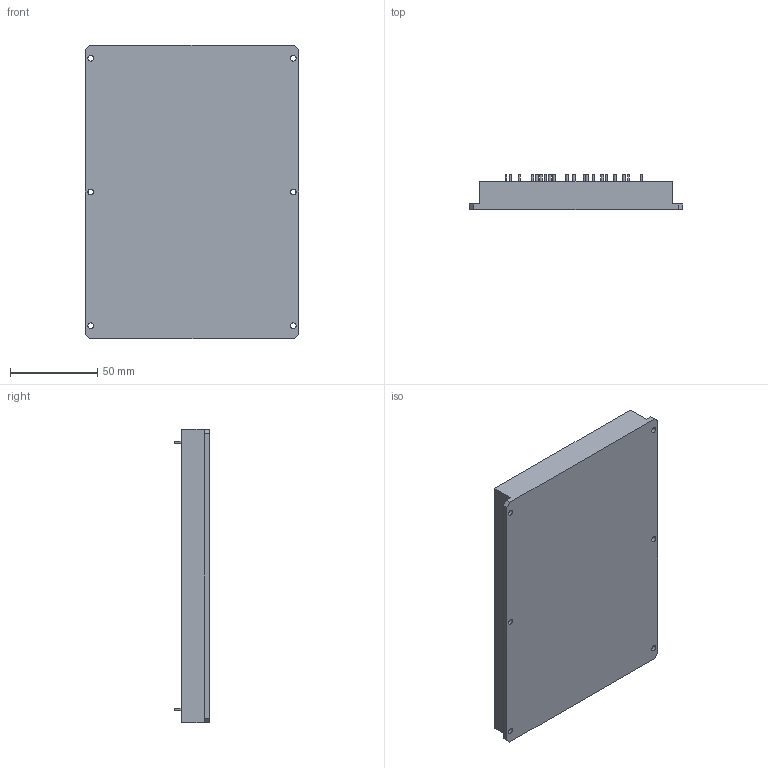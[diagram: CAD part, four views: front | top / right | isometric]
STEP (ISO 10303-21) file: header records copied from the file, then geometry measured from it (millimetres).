
FILE_DESCRIPTION(/* description */ (''),/* implementation_level */ '2;1');
FILE_NAME(/* name */ '',/* time_stamp */ '2021-06-23T20:02:09+02:00',/* author */ (''),/* organization */ (''),/* preprocessor_version */ 'ST-DEVELOPER v18.1',/* originating_system */ '',/* authorisation */ '');
FILE_SCHEMA (('AUTOMOTIVE_DESIGN { 1 0 10303 214 3 1 1 }'));
Length unit declared in the file: millimetre
Products named in the file (1): TESAV1000-F8_case_pins
Bounding box: 122 x 20 x 168 mm (x, y, z)
Volume: 283303.7 mm3; surface area: 58690.1 mm2
Topology: 1 solids, 3 shells, 91 faces, 183 edges, 122 vertices
Faces by surface type: plane 52, cylinder 39
Full cylindrical faces by diameter (mm): 1 x7, 1.5 x16, 3.2 x6
Entity records: 2456 total; most frequent: DIRECTION 445, CARTESIAN_POINT 397, ORIENTED_EDGE 366, EDGE_CURVE 183, AXIS2_PLACEMENT_3D 170, EDGE_LOOP 127, VERTEX_POINT 122, LINE 105
